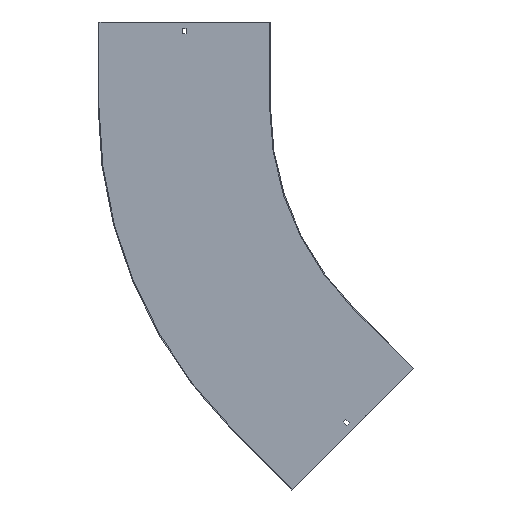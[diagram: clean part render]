
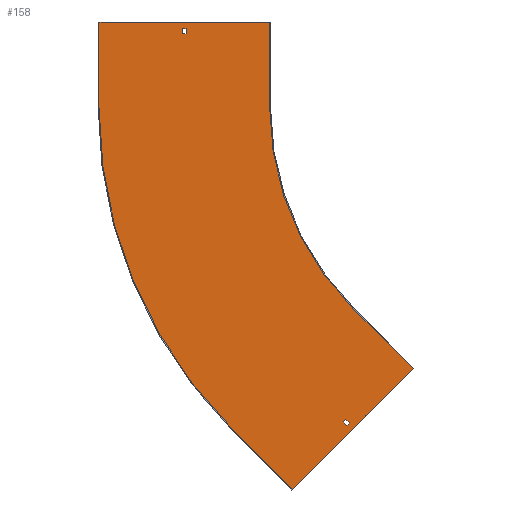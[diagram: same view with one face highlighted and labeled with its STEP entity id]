
A CAD part, front view. The second image highlights one B-rep face of the part: STEP entity #158.
In plain terms, the highlighted planar face has unit normal (0, -1, 0).
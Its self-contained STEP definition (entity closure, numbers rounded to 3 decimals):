
#8 = VERTEX_POINT ( 'NONE', #730 ) ;
#11 = CARTESIAN_POINT ( 'NONE',  ( -801.5, -1.5, 150. ) ) ;
#16 = ORIENTED_EDGE ( 'NONE', *, *, #406, .F. ) ;
#17 = VERTEX_POINT ( 'NONE', #198 ) ;
#23 = CARTESIAN_POINT ( 'NONE',  ( 0., -1.5, 138. ) ) ;
#25 = EDGE_LOOP ( 'NONE', ( #89, #627, #426, #523 ) ) ;
#34 = CARTESIAN_POINT ( 'NONE',  ( -353.553, -1.5, -353.553 ) ) ;
#35 = DIRECTION ( 'NONE',  ( 0.707, 0., -0.707 ) ) ;
#36 = EDGE_CURVE ( 'NONE', #17, #600, #213, .T. ) ;
#37 = CARTESIAN_POINT ( 'NONE',  ( -459.619, -1.5, -671.751 ) ) ;
#42 = CARTESIAN_POINT ( 'NONE',  ( 91.217, -1.5, -91.217 ) ) ;
#47 = VERTEX_POINT ( 'NONE', #560 ) ;
#48 = DIRECTION ( 'NONE',  ( 0., -1., 0. ) ) ;
#51 = LINE ( 'NONE', #42, #384 ) ;
#58 = FACE_OUTER_BOUND ( 'NONE', #284, .T. ) ;
#68 = ORIENTED_EDGE ( 'NONE', *, *, #107, .F. ) ;
#84 = DIRECTION ( 'NONE',  ( 0., 0., -1. ) ) ;
#89 = ORIENTED_EDGE ( 'NONE', *, *, #294, .T. ) ;
#91 = VERTEX_POINT ( 'NONE', #34 ) ;
#98 = CARTESIAN_POINT ( 'NONE',  ( -461.918, -1.5, -461.918 ) ) ;
#107 = EDGE_CURVE ( 'NONE', #558, #428, #501, .T. ) ;
#108 = DIRECTION ( 'NONE',  ( -1., 0., 0. ) ) ;
#114 = CARTESIAN_POINT ( 'NONE',  ( -246.427, -1.5, -458.559 ) ) ;
#123 = LINE ( 'NONE', #655, #532 ) ;
#129 = CARTESIAN_POINT ( 'NONE',  ( -359.741, -1.5, -554.902 ) ) ;
#133 = LINE ( 'NONE', #536, #688 ) ;
#141 = LINE ( 'NONE', #469, #584 ) ;
#142 = DIRECTION ( 'NONE',  ( 1., 0., 0. ) ) ;
#143 = ORIENTED_EDGE ( 'NONE', *, *, #610, .F. ) ;
#145 = EDGE_CURVE ( 'NONE', #428, #419, #51, .T. ) ;
#151 = LINE ( 'NONE', #98, #177 ) ;
#157 = LINE ( 'NONE', #425, #180 ) ;
#158 = ADVANCED_FACE ( 'NONE', ( #642, #58, #515 ), #521, .T. ) ;
#159 = VECTOR ( 'NONE', #108, 1000. ) ;
#175 = DIRECTION ( 'NONE',  ( -0.707, 0., -0.707 ) ) ;
#177 = VECTOR ( 'NONE', #35, 1000. ) ;
#180 = VECTOR ( 'NONE', #617, 1000. ) ;
#196 = CARTESIAN_POINT ( 'NONE',  ( 97.581, -1.5, -97.581 ) ) ;
#198 = CARTESIAN_POINT ( 'NONE',  ( -646.75, -1.5, 138. ) ) ;
#200 = EDGE_CURVE ( 'NONE', #600, #647, #437, .T. ) ;
#207 = CARTESIAN_POINT ( 'NONE',  ( -364.337, -1.5, -559.498 ) ) ;
#213 = LINE ( 'NONE', #686, #472 ) ;
#219 = DIRECTION ( 'NONE',  ( -0.707, 0., 0.707 ) ) ;
#220 = CARTESIAN_POINT ( 'NONE',  ( -247.487, -1.5, -459.619 ) ) ;
#223 = CARTESIAN_POINT ( 'NONE',  ( -500., -1.5, 0. ) ) ;
#230 = VERTEX_POINT ( 'NONE', #223 ) ;
#236 = EDGE_CURVE ( 'NONE', #419, #845, #151, .T. ) ;
#254 = CIRCLE ( 'NONE', #387, 500. ) ;
#258 = DIRECTION ( 'NONE',  ( -0.707, 0., -0.707 ) ) ;
#259 = DIRECTION ( 'NONE',  ( 0.707, 0., 0.707 ) ) ;
#276 = VECTOR ( 'NONE', #175, 1000. ) ;
#277 = ORIENTED_EDGE ( 'NONE', *, *, #817, .F. ) ;
#279 = DIRECTION ( 'NONE',  ( 1., 0., 0. ) ) ;
#280 = CARTESIAN_POINT ( 'NONE',  ( 0., -1.5, 0. ) ) ;
#284 = EDGE_LOOP ( 'NONE', ( #708, #577, #277, #788, #473, #524, #143, #798 ) ) ;
#294 = EDGE_CURVE ( 'NONE', #372, #17, #743, .T. ) ;
#304 = CARTESIAN_POINT ( 'NONE',  ( -366.105, -1.5, -548.538 ) ) ;
#314 = EDGE_CURVE ( 'NONE', #498, #47, #329, .T. ) ;
#329 = LINE ( 'NONE', #11, #441 ) ;
#341 = DIRECTION ( 'NONE',  ( 0., 0., 1. ) ) ;
#343 = VECTOR ( 'NONE', #279, 1000. ) ;
#347 = LINE ( 'NONE', #196, #737 ) ;
#350 = DIRECTION ( 'NONE',  ( 0., 0., -1. ) ) ;
#372 = VERTEX_POINT ( 'NONE', #689 ) ;
#378 = CARTESIAN_POINT ( 'NONE',  ( 0., -1.5, 0. ) ) ;
#384 = VECTOR ( 'NONE', #258, 1000. ) ;
#387 = AXIS2_PLACEMENT_3D ( 'NONE', #850, #695, #842 ) ;
#397 = VERTEX_POINT ( 'NONE', #220 ) ;
#399 = CARTESIAN_POINT ( 'NONE',  ( -800., -1.5, 150. ) ) ;
#406 = EDGE_CURVE ( 'NONE', #845, #558, #347, .T. ) ;
#418 = CARTESIAN_POINT ( 'NONE',  ( -500., -1.5, 150. ) ) ;
#419 = VERTEX_POINT ( 'NONE', #780 ) ;
#425 = CARTESIAN_POINT ( 'NONE',  ( -653.25, -1.5, 0. ) ) ;
#426 = ORIENTED_EDGE ( 'NONE', *, *, #200, .T. ) ;
#428 = VERTEX_POINT ( 'NONE', #304 ) ;
#431 = DIRECTION ( 'NONE',  ( 0., 0., -1. ) ) ;
#437 = LINE ( 'NONE', #710, #159 ) ;
#441 = VECTOR ( 'NONE', #142, 1000. ) ;
#459 = AXIS2_PLACEMENT_3D ( 'NONE', #378, #48, #431 ) ;
#469 = CARTESIAN_POINT ( 'NONE',  ( -459.619, -1.5, -671.751 ) ) ;
#472 = VECTOR ( 'NONE', #350, 1000. ) ;
#473 = ORIENTED_EDGE ( 'NONE', *, *, #745, .F. ) ;
#482 = CARTESIAN_POINT ( 'NONE',  ( -646.75, -1.5, 129. ) ) ;
#485 = CARTESIAN_POINT ( 'NONE',  ( -457.321, -1.5, -457.321 ) ) ;
#497 = EDGE_CURVE ( 'NONE', #829, #499, #141, .T. ) ;
#498 = VERTEX_POINT ( 'NONE', #399 ) ;
#499 = VERTEX_POINT ( 'NONE', #668 ) ;
#501 = LINE ( 'NONE', #485, #810 ) ;
#510 = CARTESIAN_POINT ( 'NONE',  ( -653.25, -1.5, 129. ) ) ;
#515 = FACE_BOUND ( 'NONE', #25, .T. ) ;
#521 = PLANE ( 'NONE',  #459 ) ;
#523 = ORIENTED_EDGE ( 'NONE', *, *, #819, .T. ) ;
#524 = ORIENTED_EDGE ( 'NONE', *, *, #694, .F. ) ;
#527 = LINE ( 'NONE', #114, #276 ) ;
#532 = VECTOR ( 'NONE', #589, 1000. ) ;
#536 = CARTESIAN_POINT ( 'NONE',  ( -800., -1.5, 0. ) ) ;
#554 = EDGE_CURVE ( 'NONE', #8, #498, #133, .T. ) ;
#558 = VERTEX_POINT ( 'NONE', #129 ) ;
#560 = CARTESIAN_POINT ( 'NONE',  ( -500., -1.5, 150. ) ) ;
#563 = AXIS2_PLACEMENT_3D ( 'NONE', #280, #757, #84 ) ;
#577 = ORIENTED_EDGE ( 'NONE', *, *, #554, .F. ) ;
#584 = VECTOR ( 'NONE', #219, 1000. ) ;
#589 = DIRECTION ( 'NONE',  ( 0.707, 0., -0.707 ) ) ;
#600 = VERTEX_POINT ( 'NONE', #482 ) ;
#610 = EDGE_CURVE ( 'NONE', #230, #91, #254, .T. ) ;
#617 = DIRECTION ( 'NONE',  ( 0., 0., 1. ) ) ;
#626 = LINE ( 'NONE', #418, #827 ) ;
#627 = ORIENTED_EDGE ( 'NONE', *, *, #36, .T. ) ;
#642 = FACE_BOUND ( 'NONE', #777, .T. ) ;
#647 = VERTEX_POINT ( 'NONE', #510 ) ;
#655 = CARTESIAN_POINT ( 'NONE',  ( -353.553, -1.5, -353.553 ) ) ;
#668 = CARTESIAN_POINT ( 'NONE',  ( -565.685, -1.5, -565.685 ) ) ;
#686 = CARTESIAN_POINT ( 'NONE',  ( -646.75, -1.5, 0. ) ) ;
#688 = VECTOR ( 'NONE', #341, 1000. ) ;
#689 = CARTESIAN_POINT ( 'NONE',  ( -653.25, -1.5, 138. ) ) ;
#694 = EDGE_CURVE ( 'NONE', #91, #397, #123, .T. ) ;
#695 = DIRECTION ( 'NONE',  ( 0., -1., 0. ) ) ;
#698 = DIRECTION ( 'NONE',  ( 0., 0., -1. ) ) ;
#701 = CIRCLE ( 'NONE', #563, 800. ) ;
#708 = ORIENTED_EDGE ( 'NONE', *, *, #314, .F. ) ;
#710 = CARTESIAN_POINT ( 'NONE',  ( 0., -1.5, 129. ) ) ;
#730 = CARTESIAN_POINT ( 'NONE',  ( -800., -1.5, 0. ) ) ;
#737 = VECTOR ( 'NONE', #259, 1000. ) ;
#743 = LINE ( 'NONE', #23, #343 ) ;
#745 = EDGE_CURVE ( 'NONE', #397, #829, #527, .T. ) ;
#757 = DIRECTION ( 'NONE',  ( 0., 1., 0. ) ) ;
#762 = ORIENTED_EDGE ( 'NONE', *, *, #236, .F. ) ;
#777 = EDGE_LOOP ( 'NONE', ( #68, #16, #762, #839 ) ) ;
#780 = CARTESIAN_POINT ( 'NONE',  ( -370.701, -1.5, -553.134 ) ) ;
#788 = ORIENTED_EDGE ( 'NONE', *, *, #497, .F. ) ;
#798 = ORIENTED_EDGE ( 'NONE', *, *, #811, .F. ) ;
#810 = VECTOR ( 'NONE', #824, 1000. ) ;
#811 = EDGE_CURVE ( 'NONE', #47, #230, #626, .T. ) ;
#817 = EDGE_CURVE ( 'NONE', #499, #8, #701, .T. ) ;
#819 = EDGE_CURVE ( 'NONE', #647, #372, #157, .T. ) ;
#824 = DIRECTION ( 'NONE',  ( -0.707, 0., 0.707 ) ) ;
#827 = VECTOR ( 'NONE', #698, 1000. ) ;
#829 = VERTEX_POINT ( 'NONE', #37 ) ;
#839 = ORIENTED_EDGE ( 'NONE', *, *, #145, .F. ) ;
#842 = DIRECTION ( 'NONE',  ( 0., 0., -1. ) ) ;
#845 = VERTEX_POINT ( 'NONE', #207 ) ;
#850 = CARTESIAN_POINT ( 'NONE',  ( 0., -1.5, 0. ) ) ;
